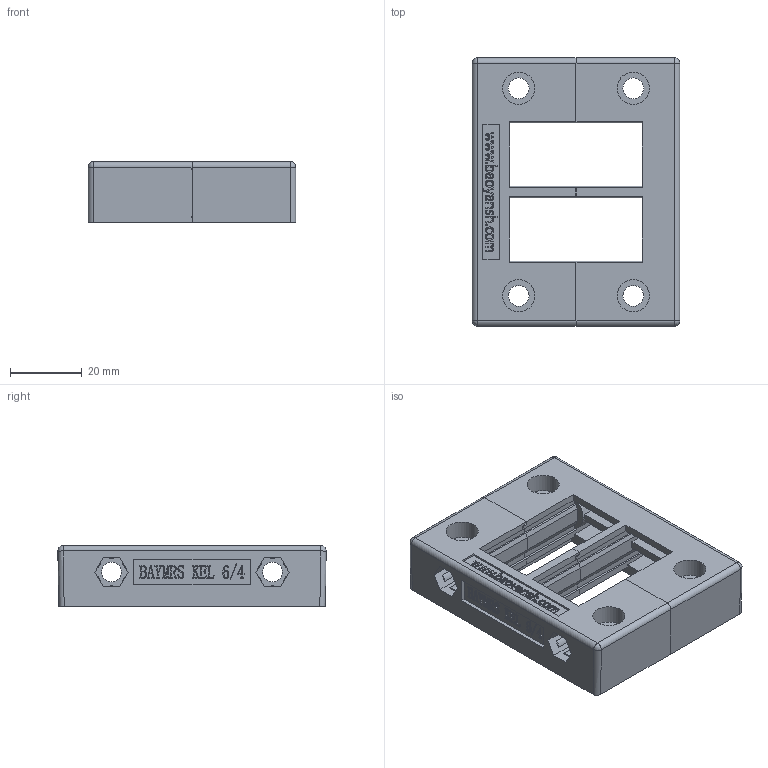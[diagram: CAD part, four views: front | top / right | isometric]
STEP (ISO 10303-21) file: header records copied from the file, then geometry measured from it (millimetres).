
FILE_DESCRIPTION(/* description */ (''),/* implementation_level */ '2;1');
FILE_NAME(/* name */ 'KEL 6-4.stp',/* time_stamp */ '2019-02-12T17:45:10+08:00',/* author */ (''),/* organization */ (''),/* preprocessor_version */ 'ST-DEVELOPER v16',/* originating_system */ 'SIEMENS PLM Software NX 10.0',/* authorisation */ '');
FILE_SCHEMA (('AP203_CONFIGURATION_CONTROLLED_3D_DESIGN_OF_MECHANICAL_PARTS_AND_ASSEMBLIES_MIM_LF { 1 0 10303 403 2 1 2}'));
Length unit declared in the file: millimetre
Products named in the file (1): 91470DE44420sgw8
Bounding box: 58 x 75 x 17 mm (x, y, z)
Volume: 35209.8 mm3; surface area: 24944.3 mm2
Topology: 2 solids, 2 shells, 939 faces, 2668 edges, 1791 vertices
Faces by surface type: plane 547, extrusion 211, cylinder 106, cone 30, bspline 24, sphere 12, torus 9
Full cylindrical faces by diameter (mm): 5.5 x4, 5.8 x4, 9 x6
Entity records: 34018 total; most frequent: CARTESIAN_POINT 10915, ORIENTED_EDGE 5280, DIRECTION 3778, EDGE_CURVE 2640, VERTEX_POINT 1784, VECTOR 1706, LINE 1495, AXIS2_PLACEMENT_3D 1036
